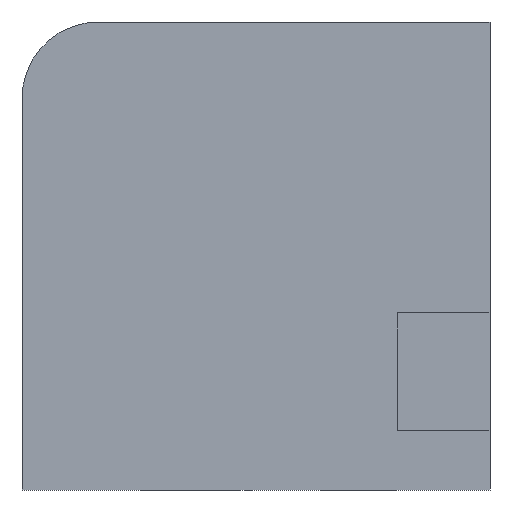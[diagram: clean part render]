
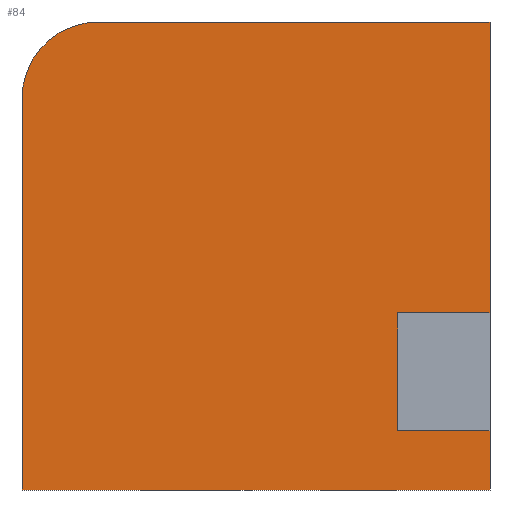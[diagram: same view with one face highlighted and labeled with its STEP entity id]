
A CAD part, front view. The second image highlights one B-rep face of the part: STEP entity #84.
In plain terms, the highlighted planar face has unit normal (0, -1, 0).
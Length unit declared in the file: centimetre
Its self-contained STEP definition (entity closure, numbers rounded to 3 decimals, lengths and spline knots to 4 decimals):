
#13 = VERTEX_POINT ( 'NONE', #762 ) ;
#30 = VERTEX_POINT ( 'NONE', #315 ) ;
#37 = EDGE_CURVE ( 'NONE', #803, #30, #507, .T. ) ;
#40 = ORIENTED_EDGE ( 'NONE', *, *, #221, .F. ) ;
#47 = EDGE_CURVE ( 'NONE', #30, #528, #138, .T. ) ;
#50 = CIRCLE ( 'NONE', #712, 163.0758 ) ;
#71 = DIRECTION ( 'NONE',  ( 0., 0., 1. ) ) ;
#84 = ADVANCED_FACE ( 'NONE', ( #634 ), #447, .F. ) ;
#101 = CARTESIAN_POINT ( 'NONE',  ( 1000., 0., 1000. ) ) ;
#107 = VERTEX_POINT ( 'NONE', #126 ) ;
#109 = EDGE_CURVE ( 'NONE', #107, #528, #586, .T. ) ;
#126 = CARTESIAN_POINT ( 'NONE',  ( 0., 0., 0. ) ) ;
#131 = CARTESIAN_POINT ( 'NONE',  ( 163.0758, 0., 1000. ) ) ;
#138 = LINE ( 'NONE', #510, #590 ) ;
#161 = DIRECTION ( 'NONE',  ( 1., 0., 0. ) ) ;
#167 = DIRECTION ( 'NONE',  ( 0., 0., 1. ) ) ;
#172 = VECTOR ( 'NONE', #729, 100. ) ;
#179 = DIRECTION ( 'NONE',  ( 0., -1., 0. ) ) ;
#184 = VERTEX_POINT ( 'NONE', #733 ) ;
#188 = DIRECTION ( 'NONE',  ( 0., 0., -1. ) ) ;
#190 = CARTESIAN_POINT ( 'NONE',  ( 0., 0., 1000. ) ) ;
#208 = EDGE_CURVE ( 'NONE', #13, #184, #353, .T. ) ;
#221 = EDGE_CURVE ( 'NONE', #13, #803, #802, .T. ) ;
#225 = LINE ( 'NONE', #431, #318 ) ;
#241 = DIRECTION ( 'NONE',  ( 0., 0., -1. ) ) ;
#258 = ORIENTED_EDGE ( 'NONE', *, *, #726, .T. ) ;
#260 = CARTESIAN_POINT ( 'NONE',  ( 0., 0., 836.9242 ) ) ;
#261 = CARTESIAN_POINT ( 'NONE',  ( 0., 0., 0. ) ) ;
#269 = CARTESIAN_POINT ( 'NONE',  ( 802.6237, 0., 378.424 ) ) ;
#315 = CARTESIAN_POINT ( 'NONE',  ( 1000., 0., 126.7476 ) ) ;
#318 = VECTOR ( 'NONE', #161, 100. ) ;
#331 = EDGE_LOOP ( 'NONE', ( #667, #543, #40, #540, #417, #584, #519, #258, #400 ) ) ;
#353 = LINE ( 'NONE', #269, #493 ) ;
#364 = LINE ( 'NONE', #101, #642 ) ;
#400 = ORIENTED_EDGE ( 'NONE', *, *, #109, .T. ) ;
#415 = CARTESIAN_POINT ( 'NONE',  ( 802.6237, 0., 126.7476 ) ) ;
#417 = ORIENTED_EDGE ( 'NONE', *, *, #423, .F. ) ;
#423 = EDGE_CURVE ( 'NONE', #723, #184, #364, .T. ) ;
#431 = CARTESIAN_POINT ( 'NONE',  ( 0., 0., 1000. ) ) ;
#441 = AXIS2_PLACEMENT_3D ( 'NONE', #190, #704, #71 ) ;
#447 = PLANE ( 'NONE',  #441 ) ;
#457 = CARTESIAN_POINT ( 'NONE',  ( 1000., 0., 0. ) ) ;
#476 = LINE ( 'NONE', #792, #561 ) ;
#485 = EDGE_CURVE ( 'NONE', #525, #723, #225, .T. ) ;
#492 = CARTESIAN_POINT ( 'NONE',  ( 163.0758, 0., 836.9242 ) ) ;
#493 = VECTOR ( 'NONE', #794, 100. ) ;
#507 = LINE ( 'NONE', #650, #627 ) ;
#510 = CARTESIAN_POINT ( 'NONE',  ( 1000., 0., 1000. ) ) ;
#517 = DIRECTION ( 'NONE',  ( 1., 0., 0. ) ) ;
#519 = ORIENTED_EDGE ( 'NONE', *, *, #793, .T. ) ;
#524 = DIRECTION ( 'NONE',  ( 1., 0., 0. ) ) ;
#525 = VERTEX_POINT ( 'NONE', #131 ) ;
#528 = VERTEX_POINT ( 'NONE', #457 ) ;
#529 = CARTESIAN_POINT ( 'NONE',  ( 1000., 0., 1000. ) ) ;
#540 = ORIENTED_EDGE ( 'NONE', *, *, #208, .T. ) ;
#543 = ORIENTED_EDGE ( 'NONE', *, *, #37, .F. ) ;
#561 = VECTOR ( 'NONE', #739, 100. ) ;
#566 = VERTEX_POINT ( 'NONE', #260 ) ;
#584 = ORIENTED_EDGE ( 'NONE', *, *, #485, .F. ) ;
#586 = LINE ( 'NONE', #261, #743 ) ;
#590 = VECTOR ( 'NONE', #188, 100. ) ;
#627 = VECTOR ( 'NONE', #517, 100. ) ;
#634 = FACE_OUTER_BOUND ( 'NONE', #331, .T. ) ;
#642 = VECTOR ( 'NONE', #241, 100. ) ;
#650 = CARTESIAN_POINT ( 'NONE',  ( 802.6237, 0., 126.7476 ) ) ;
#667 = ORIENTED_EDGE ( 'NONE', *, *, #47, .F. ) ;
#675 = CARTESIAN_POINT ( 'NONE',  ( 802.6237, 0., 126.7476 ) ) ;
#704 = DIRECTION ( 'NONE',  ( 0., 1., 0. ) ) ;
#712 = AXIS2_PLACEMENT_3D ( 'NONE', #492, #179, #167 ) ;
#723 = VERTEX_POINT ( 'NONE', #529 ) ;
#726 = EDGE_CURVE ( 'NONE', #566, #107, #476, .T. ) ;
#729 = DIRECTION ( 'NONE',  ( 0., 0., -1. ) ) ;
#733 = CARTESIAN_POINT ( 'NONE',  ( 1000., 0., 378.424 ) ) ;
#739 = DIRECTION ( 'NONE',  ( 0., 0., -1. ) ) ;
#743 = VECTOR ( 'NONE', #524, 100. ) ;
#762 = CARTESIAN_POINT ( 'NONE',  ( 802.6237, 0., 378.424 ) ) ;
#792 = CARTESIAN_POINT ( 'NONE',  ( 0., 0., 1000. ) ) ;
#793 = EDGE_CURVE ( 'NONE', #525, #566, #50, .T. ) ;
#794 = DIRECTION ( 'NONE',  ( 1., 0., 0. ) ) ;
#802 = LINE ( 'NONE', #415, #172 ) ;
#803 = VERTEX_POINT ( 'NONE', #675 ) ;
